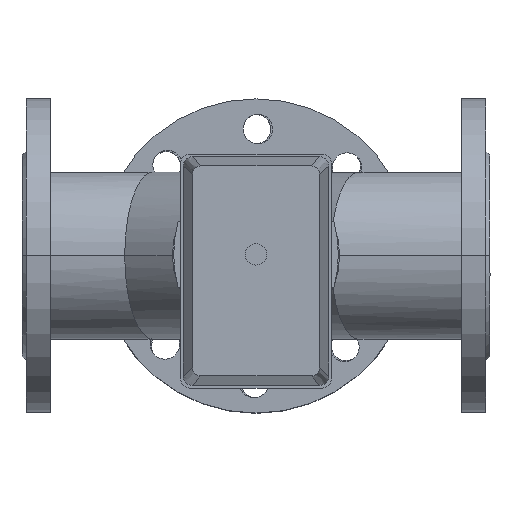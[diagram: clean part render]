
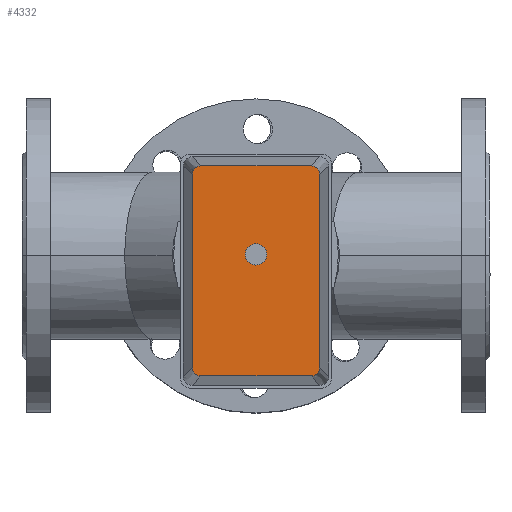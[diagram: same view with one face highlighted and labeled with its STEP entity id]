
A CAD part, top view. The second image highlights one B-rep face of the part: STEP entity #4332.
In plain terms, the highlighted planar face has unit normal (0, 0, 1).
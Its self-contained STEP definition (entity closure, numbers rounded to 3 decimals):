
#363=LINE('',#7415,#608);
#364=LINE('',#7419,#609);
#365=LINE('',#7423,#610);
#366=LINE('',#7427,#611);
#608=VECTOR('',#6125,304.8);
#609=VECTOR('',#6128,304.8);
#610=VECTOR('',#6131,304.8);
#611=VECTOR('',#6134,304.8);
#1082=FACE_OUTER_BOUND('',#1400,.T.);
#1400=EDGE_LOOP('',(#3601,#3602,#3603,#3604,#3605,#3606,#3607,#3608));
#1706=CIRCLE('',#4868,6.);
#1707=CIRCLE('',#4869,6.);
#1708=CIRCLE('',#4870,6.);
#1709=CIRCLE('',#4871,6.);
#2067=VERTEX_POINT('',#7413);
#2068=VERTEX_POINT('',#7414);
#2069=VERTEX_POINT('',#7416);
#2070=VERTEX_POINT('',#7418);
#2071=VERTEX_POINT('',#7420);
#2072=VERTEX_POINT('',#7422);
#2073=VERTEX_POINT('',#7424);
#2074=VERTEX_POINT('',#7426);
#2590=EDGE_CURVE('',#2067,#2068,#363,.T.);
#2591=EDGE_CURVE('',#2068,#2069,#1706,.T.);
#2592=EDGE_CURVE('',#2069,#2070,#364,.T.);
#2593=EDGE_CURVE('',#2070,#2071,#1707,.T.);
#2594=EDGE_CURVE('',#2071,#2072,#365,.T.);
#2595=EDGE_CURVE('',#2072,#2073,#1708,.T.);
#2596=EDGE_CURVE('',#2073,#2074,#366,.T.);
#2597=EDGE_CURVE('',#2074,#2067,#1709,.T.);
#3601=ORIENTED_EDGE('',*,*,#2590,.T.);
#3602=ORIENTED_EDGE('',*,*,#2591,.T.);
#3603=ORIENTED_EDGE('',*,*,#2592,.T.);
#3604=ORIENTED_EDGE('',*,*,#2593,.T.);
#3605=ORIENTED_EDGE('',*,*,#2594,.T.);
#3606=ORIENTED_EDGE('',*,*,#2595,.T.);
#3607=ORIENTED_EDGE('',*,*,#2596,.T.);
#3608=ORIENTED_EDGE('',*,*,#2597,.T.);
#3872=PLANE('',#4867);
#4332=ADVANCED_FACE('',(#1082),#3872,.T.);
#4867=AXIS2_PLACEMENT_3D('',#7412,#6123,#6124);
#4868=AXIS2_PLACEMENT_3D('',#7417,#6126,#6127);
#4869=AXIS2_PLACEMENT_3D('',#7421,#6129,#6130);
#4870=AXIS2_PLACEMENT_3D('',#7425,#6132,#6133);
#4871=AXIS2_PLACEMENT_3D('',#7428,#6135,#6136);
#6123=DIRECTION('center_axis',(0.,0.,1.));
#6124=DIRECTION('ref_axis',(0.,-1.,0.));
#6125=DIRECTION('',(0.,-1.,0.));
#6126=DIRECTION('center_axis',(0.,0.,1.));
#6127=DIRECTION('ref_axis',(1.,0.,0.));
#6128=DIRECTION('',(1.,0.,0.));
#6129=DIRECTION('center_axis',(0.,0.,1.));
#6130=DIRECTION('ref_axis',(1.,0.,0.));
#6131=DIRECTION('',(0.,1.,0.));
#6132=DIRECTION('center_axis',(0.,0.,1.));
#6133=DIRECTION('ref_axis',(1.,0.,0.));
#6134=DIRECTION('',(-1.,0.,0.));
#6135=DIRECTION('center_axis',(0.,0.,1.));
#6136=DIRECTION('ref_axis',(1.,0.,0.));
#7412=CARTESIAN_POINT('Origin',(-12.5,0.002,458.));
#7413=CARTESIAN_POINT('',(-91.,41.502,458.));
#7414=CARTESIAN_POINT('',(-91.,-41.498,458.));
#7415=CARTESIAN_POINT('',(-91.,-41.498,458.));
#7416=CARTESIAN_POINT('',(-85.,-47.498,458.));
#7417=CARTESIAN_POINT('Origin',(-85.,-41.498,458.));
#7418=CARTESIAN_POINT('',(60.,-47.498,458.));
#7419=CARTESIAN_POINT('',(60.,-47.498,458.));
#7420=CARTESIAN_POINT('',(66.,-41.498,458.));
#7421=CARTESIAN_POINT('Origin',(60.,-41.498,458.));
#7422=CARTESIAN_POINT('',(66.,41.502,458.));
#7423=CARTESIAN_POINT('',(66.,41.502,458.));
#7424=CARTESIAN_POINT('',(60.,47.502,458.));
#7425=CARTESIAN_POINT('Origin',(60.,41.502,458.));
#7426=CARTESIAN_POINT('',(-85.,47.502,458.));
#7427=CARTESIAN_POINT('',(-85.,47.502,458.));
#7428=CARTESIAN_POINT('Origin',(-85.,41.502,458.));
